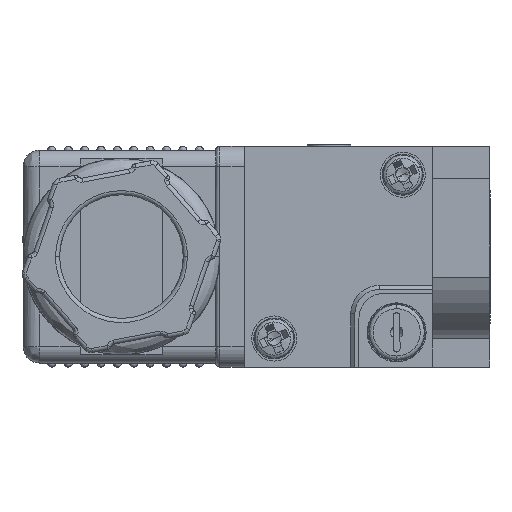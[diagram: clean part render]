
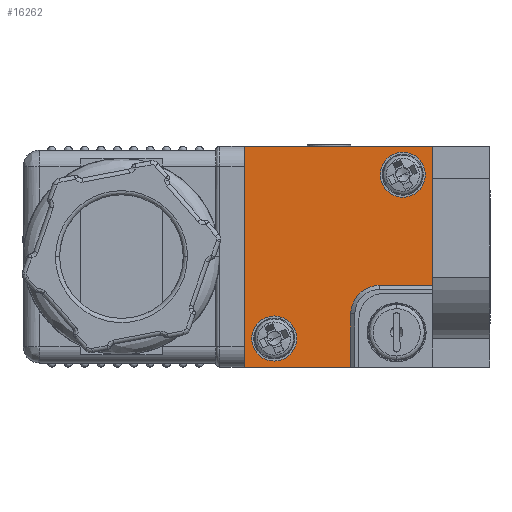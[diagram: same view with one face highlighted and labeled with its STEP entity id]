
A CAD part, left-side view. The second image highlights one B-rep face of the part: STEP entity #16262.
In plain terms, the highlighted planar face has unit normal (-1, 0, 0) as drawn and (0, 0, 1) by its records, which use the part's own axes.
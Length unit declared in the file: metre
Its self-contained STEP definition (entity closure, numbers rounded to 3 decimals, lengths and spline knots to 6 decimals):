
#332 = VECTOR ( 'NONE', #8907, 1. ) ;
#338 = CARTESIAN_POINT ( 'NONE',  ( -0.0135, 0.044, 0.006 ) ) ;
#392 = EDGE_CURVE ( 'NONE', #24633, #19048, #22300, .T. ) ;
#816 = AXIS2_PLACEMENT_3D ( 'NONE', #24867, #12170, #26927 ) ;
#834 = EDGE_LOOP ( 'NONE', ( #20019, #2339 ) ) ;
#946 = DIRECTION ( 'NONE',  ( 1., 0., 0. ) ) ;
#1121 = LINE ( 'NONE', #7587, #21854 ) ;
#1151 = DIRECTION ( 'NONE',  ( 0., 0., 1. ) ) ;
#1268 = LINE ( 'NONE', #17722, #17672 ) ;
#1438 = EDGE_LOOP ( 'NONE', ( #3453, #26917, #15062, #17876, #3206, #22486, #15812 ) ) ;
#1505 = VERTEX_POINT ( 'NONE', #18669 ) ;
#1511 = FACE_OUTER_BOUND ( 'NONE', #1438, .T. ) ;
#1736 = VERTEX_POINT ( 'NONE', #13174 ) ;
#1753 = DIRECTION ( 'NONE',  ( 1., 0., 0. ) ) ;
#2045 = LINE ( 'NONE', #8804, #2738 ) ;
#2167 = FACE_BOUND ( 'NONE', #834, .T. ) ;
#2289 = EDGE_CURVE ( 'NONE', #12234, #5126, #2045, .T. ) ;
#2339 = ORIENTED_EDGE ( 'NONE', *, *, #5688, .T. ) ;
#2425 = VERTEX_POINT ( 'NONE', #11252 ) ;
#2595 = CARTESIAN_POINT ( 'NONE',  ( 0.0135, 0.0325, 0.006 ) ) ;
#2738 = VECTOR ( 'NONE', #9063, 1. ) ;
#2790 = CARTESIAN_POINT ( 'NONE',  ( 0.01275, 0.02465, 0.006 ) ) ;
#3206 = ORIENTED_EDGE ( 'NONE', *, *, #10174, .T. ) ;
#3453 = ORIENTED_EDGE ( 'NONE', *, *, #4925, .T. ) ;
#3571 = VERTEX_POINT ( 'NONE', #2790 ) ;
#3783 = CARTESIAN_POINT ( 'NONE',  ( -0.0135, 0.021, 0.006 ) ) ;
#3834 = ORIENTED_EDGE ( 'NONE', *, *, #5223, .F. ) ;
#3907 = AXIS2_PLACEMENT_3D ( 'NONE', #26360, #13801, #946 ) ;
#4180 = CARTESIAN_POINT ( 'NONE',  ( -0.00725, 0.04035, 0.006 ) ) ;
#4575 = CIRCLE ( 'NONE', #23504, 0.0035 ) ;
#4714 = DIRECTION ( 'NONE',  ( 0., 1., 0. ) ) ;
#4822 = LINE ( 'NONE', #17992, #16277 ) ;
#4925 = EDGE_CURVE ( 'NONE', #13258, #12234, #6610, .T. ) ;
#5126 = VERTEX_POINT ( 'NONE', #11324 ) ;
#5223 = EDGE_CURVE ( 'NONE', #19048, #24633, #6250, .T. ) ;
#5688 = EDGE_CURVE ( 'NONE', #1736, #3571, #8911, .T. ) ;
#5823 = DIRECTION ( 'NONE',  ( 0., 0., -1. ) ) ;
#6082 = EDGE_CURVE ( 'NONE', #2425, #13258, #7867, .T. ) ;
#6163 = AXIS2_PLACEMENT_3D ( 'NONE', #3783, #14611, #1753 ) ;
#6250 = CIRCLE ( 'NONE', #10704, 0.00275 ) ;
#6398 = DIRECTION ( 'NONE',  ( 0., 0., 1. ) ) ;
#6610 = LINE ( 'NONE', #10023, #332 ) ;
#6973 = DIRECTION ( 'NONE',  ( 1., 0., 0. ) ) ;
#7050 = DIRECTION ( 'NONE',  ( 0., -1., 0. ) ) ;
#7587 = CARTESIAN_POINT ( 'NONE',  ( 0., 0.021, 0.006 ) ) ;
#7867 = LINE ( 'NONE', #2595, #18665 ) ;
#7948 = EDGE_CURVE ( 'NONE', #5126, #1505, #1268, .T. ) ;
#8804 = CARTESIAN_POINT ( 'NONE',  ( -0.0135, 0.0325, 0.006 ) ) ;
#8907 = DIRECTION ( 'NONE',  ( -1., 0., 0. ) ) ;
#8911 = CIRCLE ( 'NONE', #3907, 0.00275 ) ;
#8913 = VERTEX_POINT ( 'NONE', #11449 ) ;
#9063 = DIRECTION ( 'NONE',  ( 0., -1., 0. ) ) ;
#9149 = AXIS2_PLACEMENT_3D ( 'NONE', #19280, #6398, #21428 ) ;
#9859 = EDGE_CURVE ( 'NONE', #3571, #1736, #26422, .T. ) ;
#10023 = CARTESIAN_POINT ( 'NONE',  ( 0., 0.044, 0.006 ) ) ;
#10174 = EDGE_CURVE ( 'NONE', #8913, #11116, #4822, .T. ) ;
#10704 = AXIS2_PLACEMENT_3D ( 'NONE', #14003, #1151, #16160 ) ;
#11116 = VERTEX_POINT ( 'NONE', #27399 ) ;
#11252 = CARTESIAN_POINT ( 'NONE',  ( 0.0135, 0.021, 0.006 ) ) ;
#11324 = CARTESIAN_POINT ( 'NONE',  ( -0.0135, 0.031, 0.006 ) ) ;
#11449 = CARTESIAN_POINT ( 'NONE',  ( -0.0035, 0.0275, 0.006 ) ) ;
#12170 = DIRECTION ( 'NONE',  ( 0., 0., -1. ) ) ;
#12234 = VERTEX_POINT ( 'NONE', #338 ) ;
#12428 = PLANE ( 'NONE',  #6163 ) ;
#13174 = CARTESIAN_POINT ( 'NONE',  ( 0.00725, 0.02465, 0.006 ) ) ;
#13258 = VERTEX_POINT ( 'NONE', #19945 ) ;
#13801 = DIRECTION ( 'NONE',  ( 0., 0., -1. ) ) ;
#14003 = CARTESIAN_POINT ( 'NONE',  ( -0.01, 0.04035, 0.006 ) ) ;
#14611 = DIRECTION ( 'NONE',  ( 0., 0., 1. ) ) ;
#15062 = ORIENTED_EDGE ( 'NONE', *, *, #7948, .T. ) ;
#15812 = ORIENTED_EDGE ( 'NONE', *, *, #6082, .T. ) ;
#16159 = ORIENTED_EDGE ( 'NONE', *, *, #392, .F. ) ;
#16160 = DIRECTION ( 'NONE',  ( 1., 0., 0. ) ) ;
#16262 = ADVANCED_FACE ( 'NONE', ( #18592, #2167, #1511 ), #12428, .T. ) ;
#16277 = VECTOR ( 'NONE', #7050, 1. ) ;
#17672 = VECTOR ( 'NONE', #6973, 1. ) ;
#17722 = CARTESIAN_POINT ( 'NONE',  ( 0., 0.031, 0.006 ) ) ;
#17876 = ORIENTED_EDGE ( 'NONE', *, *, #21671, .T. ) ;
#17992 = CARTESIAN_POINT ( 'NONE',  ( -0.0035, 0.0325, 0.006 ) ) ;
#18592 = FACE_BOUND ( 'NONE', #27158, .T. ) ;
#18665 = VECTOR ( 'NONE', #4714, 1. ) ;
#18669 = CARTESIAN_POINT ( 'NONE',  ( -0.007, 0.031, 0.006 ) ) ;
#18709 = CARTESIAN_POINT ( 'NONE',  ( -0.007, 0.0275, 0.006 ) ) ;
#19048 = VERTEX_POINT ( 'NONE', #4180 ) ;
#19197 = CARTESIAN_POINT ( 'NONE',  ( -0.01275, 0.04035, 0.006 ) ) ;
#19280 = CARTESIAN_POINT ( 'NONE',  ( -0.01, 0.04035, 0.006 ) ) ;
#19945 = CARTESIAN_POINT ( 'NONE',  ( 0.0135, 0.044, 0.006 ) ) ;
#20019 = ORIENTED_EDGE ( 'NONE', *, *, #9859, .T. ) ;
#20841 = DIRECTION ( 'NONE',  ( 0., 1., 0. ) ) ;
#21428 = DIRECTION ( 'NONE',  ( 1., 0., 0. ) ) ;
#21671 = EDGE_CURVE ( 'NONE', #1505, #8913, #4575, .T. ) ;
#21854 = VECTOR ( 'NONE', #22597, 1. ) ;
#22300 = CIRCLE ( 'NONE', #9149, 0.00275 ) ;
#22486 = ORIENTED_EDGE ( 'NONE', *, *, #25506, .T. ) ;
#22597 = DIRECTION ( 'NONE',  ( 1., 0., 0. ) ) ;
#23504 = AXIS2_PLACEMENT_3D ( 'NONE', #18709, #5823, #20841 ) ;
#24633 = VERTEX_POINT ( 'NONE', #19197 ) ;
#24867 = CARTESIAN_POINT ( 'NONE',  ( 0.01, 0.02465, 0.006 ) ) ;
#25506 = EDGE_CURVE ( 'NONE', #11116, #2425, #1121, .T. ) ;
#26360 = CARTESIAN_POINT ( 'NONE',  ( 0.01, 0.02465, 0.006 ) ) ;
#26422 = CIRCLE ( 'NONE', #816, 0.00275 ) ;
#26917 = ORIENTED_EDGE ( 'NONE', *, *, #2289, .T. ) ;
#26927 = DIRECTION ( 'NONE',  ( 1., 0., 0. ) ) ;
#27158 = EDGE_LOOP ( 'NONE', ( #3834, #16159 ) ) ;
#27399 = CARTESIAN_POINT ( 'NONE',  ( -0.0035, 0.021, 0.006 ) ) ;
